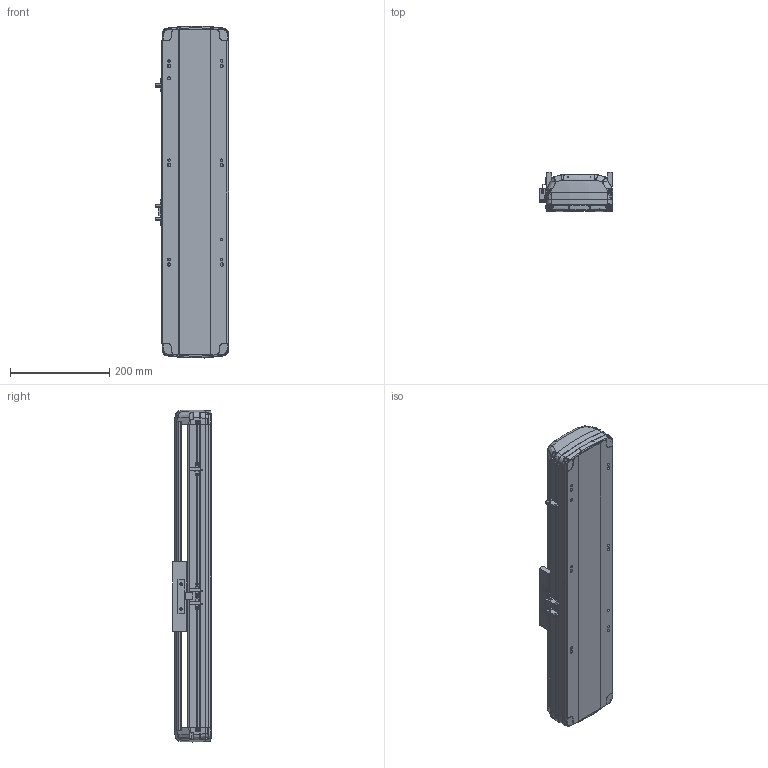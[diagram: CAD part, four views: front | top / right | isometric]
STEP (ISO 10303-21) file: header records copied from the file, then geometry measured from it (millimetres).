
FILE_DESCRIPTION (( 'STEP AP214' ), '1' );
FILE_NAME ('RTH14-XX-250-B-M20B-C4.STEP', '2025-10-24T08:27:24', ( 'Microsoft' ), ( 'Microsoft' ), 'SwSTEP 2.0', 'SolidWorks 2018', '' );
FILE_SCHEMA (( 'AUTOMOTIVE_DESIGN' ));
Length unit declared in the file: millimetre
Products named in the file (7): N_RTH14-B-007B奻裔^RTH14-XX-XX-B-M20B-C4; N_RTH13-L-012感应片（外置）^RTH14-XX-XX-B-M20B-C4; N_RTH14-GY-001P^RTH14-XX-XX-B-M20B-C4; N_RTH14-R-004-SFSR16賑釱^RTH14-XX-XX-B-M20B-C4; N_RTH14-B-011PB菁釱^RTH14-XX-XX-B-M20B-C4; RTH14-XX-250-B-M20B-C4; N_OMRON EE-SX672 传感器^RTH14-XX-XX-B-M20B-C4
Assembly tree (9 placements, depth 2):
  RTH14-XX-250-B-M20B-C4
    N_RTH14-B-011PB菁釱^RTH14-XX-XX-B-M20B-C4
    N_RTH14-B-007B奻裔^RTH14-XX-XX-B-M20B-C4
    N_RTH13-L-012感应片（外置）^RTH14-XX-XX-B-M20B-C4
    N_OMRON EE-SX672 传感器^RTH14-XX-XX-B-M20B-C4  x3
    N_RTH14-R-004-SFSR16賑釱^RTH14-XX-XX-B-M20B-C4
    N_RTH14-GY-001P^RTH14-XX-XX-B-M20B-C4  x2
Bounding box: 148.5 x 78.03 x 668.74 mm (x, y, z)
Volume: 2894833.9 mm3; surface area: 678456 mm2
Topology: 9 solids, 9 shells, 1882 faces, 5296 edges, 3446 vertices
Faces by surface type: plane 971, bspline 450, cylinder 397, cone 56, torus 8
Entity records: 45244 total; most frequent: CARTESIAN_POINT 20538, ORIENTED_EDGE 5608, DIRECTION 4047, EDGE_CURVE 2804, VERTEX_POINT 1832, VECTOR 1595, LINE 1595, AXIS2_PLACEMENT_3D 1226
